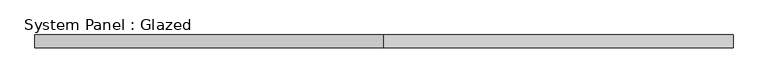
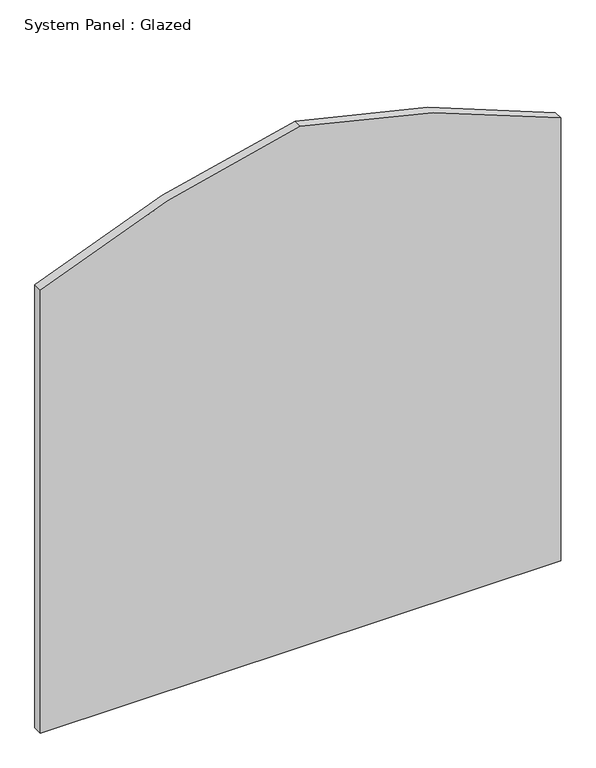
"""IFC4 building model written with IfcOpenShell, lengths in millimetres: plate geometry, System Panel : Glazed."""

from ifc_helpers import new_model, si_unit, point, frame, frame_2d, origin, place, context, project, spatial, polyline, circle_curve, trimmed, segment, composite_curve, outline, extrude, source, transform, mapped, element, save


def system_panel_glazed_7a5e4d7d(model_context):
    return source(origin(), model_context, "Body", "SweptSolid", [
        extrude(outline(composite_curve([segment(polyline([(0.0, -691.6666667), (0.0, 691.6666667), (1244.6688692, 691.6666667)]), True, "CONTINUOUS"), segment(trimmed(circle_curve(frame_2d((-1159.1383308, -447.5489393)), 2660.0942185), [point((1244.6688692, 691.6666667))], [point((1463.0365677, 0.0))], False, "CARTESIAN"), True, "CONTINUOUS"), segment(trimmed(circle_curve(frame_2d((-1159.1383308, 447.5489393)), 2660.0942185), [point((1463.0365677, 0.0))], [point((1244.6688692, -691.6666667))], False, "CARTESIAN"), True, "CONTINUOUS"), segment(polyline([(1244.6688692, -691.6666667), (0.0, -691.6666667)]), True, "CONTINUOUS")], self_intersect=False)), frame((0.0, 24.5, 0.0), z_axis=(0.0, 1.0, 0.0), x_axis=(0.0, 0.0, 1.0)), (0.0, 0.0, 1.0), 25.0),
    ])


if __name__ == "__main__":
    model = new_model("IFC4")
    model_context = context("Model", 3, world=origin())
    ifc_project = project(units=[si_unit("LENGTHUNIT", "METRE", prefix="MILLI")], contexts=[model_context])
    site = spatial("IfcSite", under=ifc_project)
    building = spatial("IfcBuilding", under=site)
    placement = place(None, origin())
    system_panel_glazed_shape = system_panel_glazed_7a5e4d7d(model_context)
    element("IfcPlate", 1, ObjectType="System Panel : Glazed", at=placement, inside=building, context=model_context, shape_type="MappedRepresentation", body=[
        mapped(system_panel_glazed_shape, transform((0.0, 0.0, 0.0), x_axis=(1.0, 0.0, 0.0), y_axis=(0.0, 1.0, 0.0), z_axis=(0.0, 0.0, 1.0))),
    ])
    save(model, "model.ifc")
